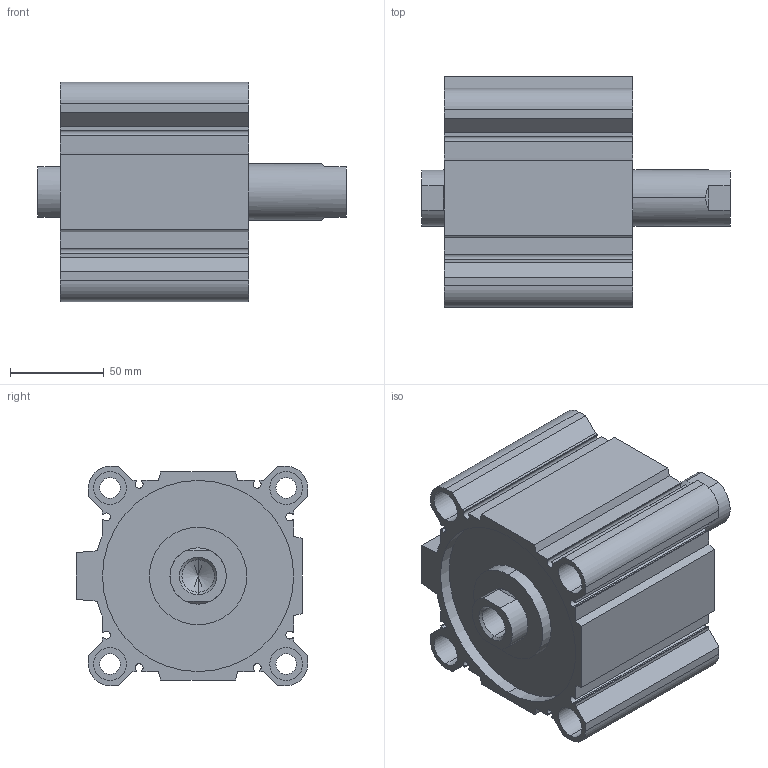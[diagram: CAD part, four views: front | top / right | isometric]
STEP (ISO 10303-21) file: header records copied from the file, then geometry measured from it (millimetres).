
FILE_DESCRIPTION (( 'STEP AP203' ), '1' );
FILE_NAME ('CCMB100-40F-P.STEP', '2020-08-05T11:54:29', ( '' ), ( '' ), 'SwSTEP 2.0', 'SolidWorks 2019', '' );
FILE_SCHEMA (( 'CONFIG_CONTROL_DESIGN' ));
Length unit declared in the file: millimetre
Products named in the file (1): CCMB100-40F-P
Bounding box: 164.5 x 123.5 x 117 mm (x, y, z)
Volume: 824801 mm3; surface area: 188163.4 mm2
Topology: 2 solids, 2 shells, 178 faces, 456 edges, 298 vertices
Faces by surface type: plane 90, cylinder 76, cone 12
Entity records: 5491 total; most frequent: DIRECTION 962, CARTESIAN_POINT 953, ORIENTED_EDGE 904, EDGE_CURVE 452, AXIS2_PLACEMENT_3D 339, VERTEX_POINT 298, VECTOR 284, LINE 284
